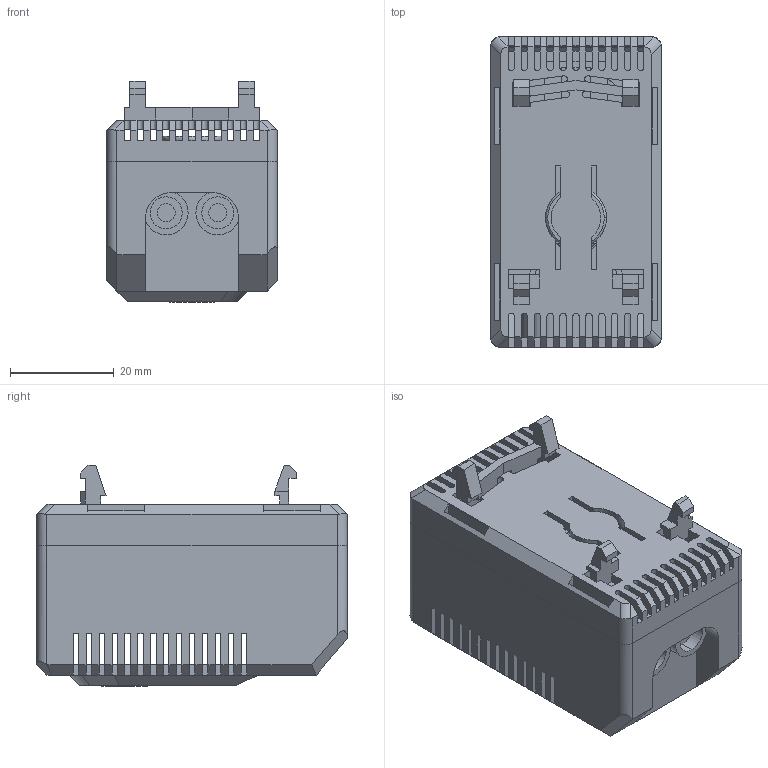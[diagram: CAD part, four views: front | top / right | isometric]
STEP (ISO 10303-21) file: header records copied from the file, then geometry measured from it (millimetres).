
FILE_DESCRIPTION (( 'STEP AP203' ), '1' );
FILE_NAME ('KTS 011 °×.STEP', '2026-01-14T03:28:09', ( 'PC' ), ( 'Microsoft' ), 'SwSTEP 2.0', 'SolidWorks 2024', '' );
FILE_SCHEMA (( 'CONFIG_CONTROL_DESIGN' ));
Length unit declared in the file: millimetre
Products named in the file (13): KTO011_5; KTO011_7; KTO011_2; ____2_1; KTO011_9; KTS 011.01; KTO011_10; KTO011_8; KTO011_6; KTO011_4; KTO011_1; KTO011_3; KTS  011  白
Assembly tree (12 placements, depth 2):
  KTS  011  白
    KTO011_1
    ____2_1
    KTO011_2
    KTO011_3
    KTO011_4
    KTO011_5
    KTO011_6
    KTO011_7
    KTO011_8
    KTO011_9
    KTO011_10
    KTS 011.01
Bounding box: 33 x 60 x 42.76 mm (x, y, z)
Volume: 18708.1 mm3; surface area: 27252.6 mm2
Topology: 13 solids, 15 shells, 1196 faces, 3534 edges, 2298 vertices
Faces by surface type: plane 845, cylinder 177, bspline 130, torus 28, cone 16
Entity records: 48346 total; most frequent: CARTESIAN_POINT 15355, ORIENTED_EDGE 7068, DIRECTION 5861, EDGE_CURVE 3534, LINE 2777, VECTOR 2777, VERTEX_POINT 2298, AXIS2_PLACEMENT_3D 1542
